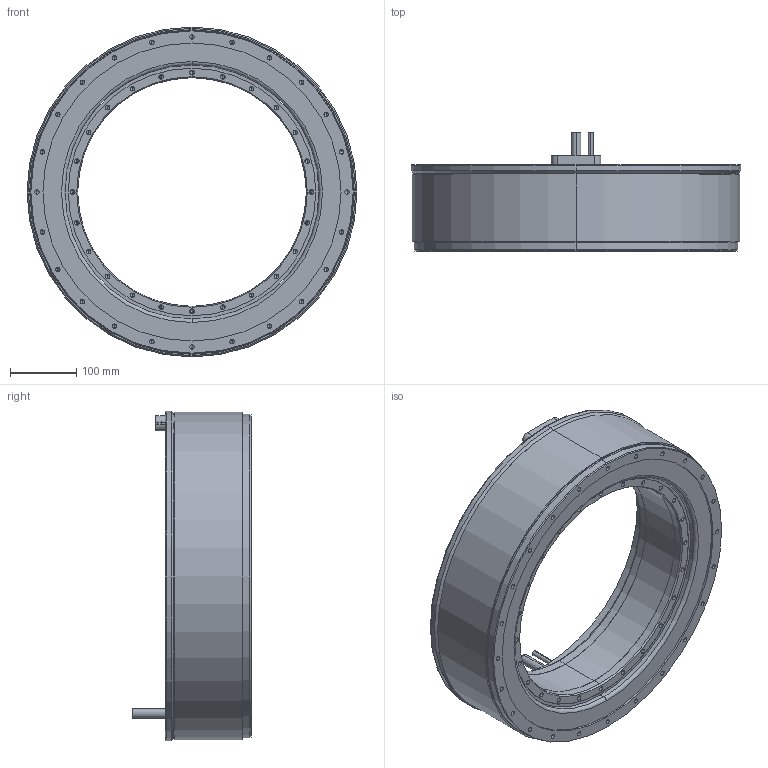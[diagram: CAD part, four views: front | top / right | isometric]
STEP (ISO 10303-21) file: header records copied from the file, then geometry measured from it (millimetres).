
FILE_DESCRIPTION (( 'STEP AP203' ), '1' );
FILE_NAME ('TM-2-D9-SB0(J0).STEP', '2023-06-06T03:23:50', ( '' ), ( '' ), 'SwSTEP 2.0', 'SolidWorks 2015', '' );
FILE_SCHEMA (( 'CONFIG_CONTROL_DESIGN' ));
Length unit declared in the file: millimetre
Products named in the file (3): TM-2-D9(J0)_Rotor; TM-2-D9-SB0(J0); TM-2-D9-SB0(J0)_Stator
Assembly tree (2 placements, depth 2):
  TM-2-D9-SB0(J0)
    TM-2-D9-SB0(J0)_Stator
    TM-2-D9(J0)_Rotor
Bounding box: 498 x 179 x 498 mm (x, y, z)
Volume: 11562442.9 mm3; surface area: 814850.9 mm2
Topology: 2 solids, 2 shells, 523 faces, 1266 edges, 670 vertices
Faces by surface type: cylinder 248, cone 216, plane 51, torus 8
Entity records: 14111 total; most frequent: DIRECTION 2660, CARTESIAN_POINT 2268, ORIENTED_EDGE 2140, EDGE_CURVE 1070, AXIS2_PLACEMENT_3D 1062, VERTEX_POINT 670, EDGE_LOOP 646, LINE 536
